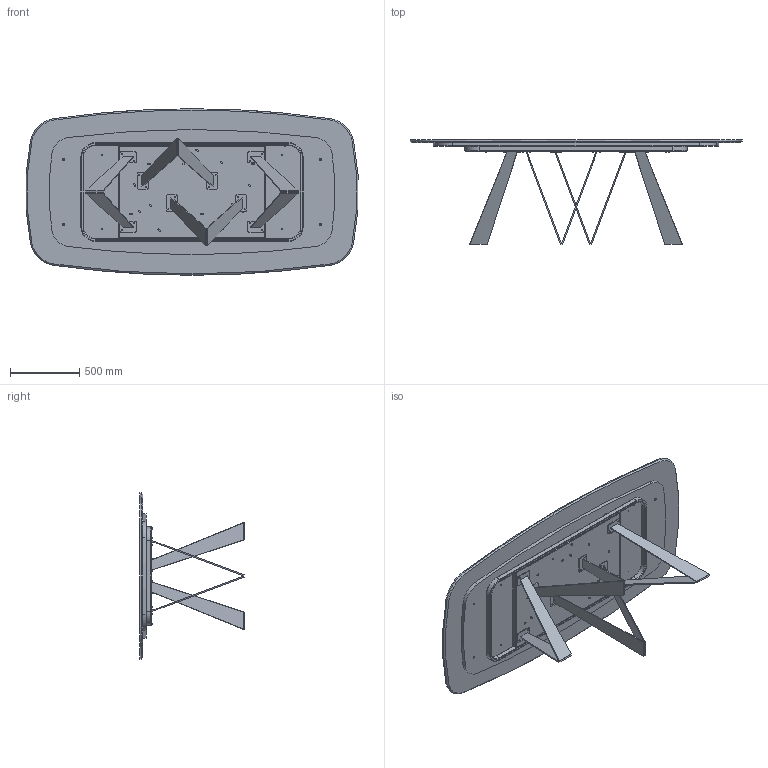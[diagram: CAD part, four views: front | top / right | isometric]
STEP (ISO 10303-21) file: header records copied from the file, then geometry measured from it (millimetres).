
FILE_DESCRIPTION (( 'STEP AP203' ), '1' );
FILE_NAME ('NO43M_Noa_240x120x75h_Marble Shaped.STEP', '2024-08-07T14:25:46', ( '' ), ( '' ), 'SwSTEP 2.0', 'SolidWorks 2022', '' );
FILE_SCHEMA (( 'CONFIG_CONTROL_DESIGN' ));
Length unit declared in the file: millimetre
Products named in the file (17): rondella M8_8X16; M8xXXmm_M8x55mm; M8xXXmm_M8x16mm; TTAV06_02-01-VASSOIO TAVOLI PLAI ONDA NOA 240; NOA000001GMB-00-Piastra Principale gamba NOA_Piatto DX; M4XMXX-00-Piani Sagomati in marmo_2400x1200; M4X-00-Piani Sagomati in marmo_2400 x 1200; NOA000001GMB-00-Piastra Principale gamba NOA_Piatto SX; TTAV06-01-TELAIO X TAVOLI PLAI ONDA NOA 240cm_TTAV06; MAPPA; NO43M_Noa_240x120x75h_Marble Shaped; TRUXXXXXX-00-NOBILITATO GR CON SUPP TRUCIOLARE SP. 25_TRU00007_2100x900; 434070-00-PIEDINO TPV GOMMA NERO D. 30x8max18; Assieme NOA var 3_noa 200-240; NOA000000-00-NOA BASE GREZZA; NOA000001PTRS-00-Piastra rettangoalre con fori; TTAV06_01-01-STRUTTURA X TAVOLI PLAI ONDA NOA 240_Default<A macchina>
Assembly tree (57 placements, depth 4):
  MAPPA
  NO43M_Noa_240x120x75h_Marble Shaped
    M4XMXX-00-Piani Sagomati in marmo_2400x1200
      M4X-00-Piani Sagomati in marmo_2400 x 1200
      TRUXXXXXX-00-NOBILITATO GR CON SUPP TRUCIOLARE SP. 25_TRU00007_2100x900
    Assieme NOA var 3_noa 200-240
      NOA000000-00-NOA BASE GREZZA  x4
        NOA000001GMB-00-Piastra Principale gamba NOA_Piatto SX
        NOA000001GMB-00-Piastra Principale gamba NOA_Piatto DX
        NOA000001PTRS-00-Piastra rettangoalre con fori
      TTAV06-01-TELAIO X TAVOLI PLAI ONDA NOA 240cm_TTAV06
        TTAV06_02-01-VASSOIO TAVOLI PLAI ONDA NOA 240
        TTAV06_01-01-STRUTTURA X TAVOLI PLAI ONDA NOA 240_Default<A macchina>
    M8xXXmm_M8x55mm  x4
    rondella M8_8X16  x20
    M8xXXmm_M8x16mm  x16
    434070-00-PIEDINO TPV GOMMA NERO D. 30x8max18  x2
Bounding box: 2391.9 x 752.8 x 1200 mm (x, y, z)
Volume: 104967345.5 mm3; surface area: 13027947.7 mm2
Topology: 71 solids, 71 shells, 1729 faces, 3971 edges, 2345 vertices
Faces by surface type: plane 634, cylinder 460, cone 355, torus 280
Entity records: 24607 total; most frequent: DIRECTION 4059, CARTESIAN_POINT 3771, ORIENTED_EDGE 3514, EDGE_CURVE 1757, AXIS2_PLACEMENT_3D 1553, VERTEX_POINT 1093, LINE 953, VECTOR 953
